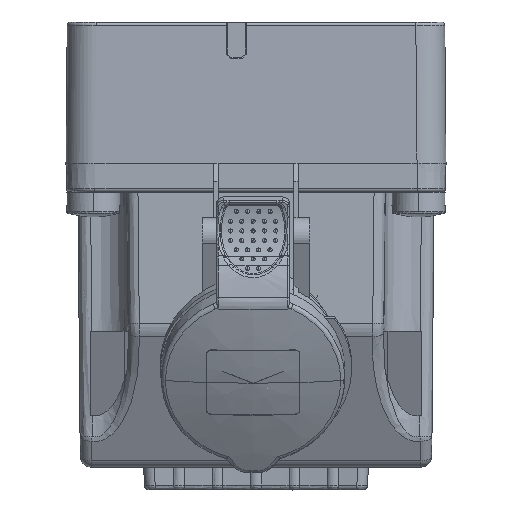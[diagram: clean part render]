
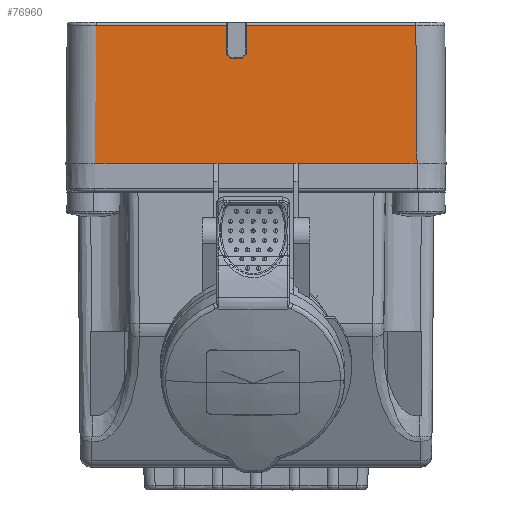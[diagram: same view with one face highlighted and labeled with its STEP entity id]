
A CAD part, left-side view. The second image highlights one B-rep face of the part: STEP entity #76960.
In plain terms, the highlighted planar face has unit normal (-1, 0, 0.004).
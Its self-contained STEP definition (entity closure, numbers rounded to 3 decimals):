
#15 = CARTESIAN_POINT ( 'NONE',  ( 684., 1762.254, 0. ) ) ;
#198 = ORIENTED_EDGE ( 'NONE', *, *, #31707, .T. ) ;
#267 = CARTESIAN_POINT ( 'NONE',  ( 684., 1749., 0. ) ) ;
#2074 = DIRECTION ( 'NONE',  ( 0., 1., 0. ) ) ;
#2452 = DIRECTION ( 'NONE',  ( 0., 1., 0. ) ) ;
#2458 = VERTEX_POINT ( 'NONE', #41092 ) ;
#4107 = ORIENTED_EDGE ( 'NONE', *, *, #54198, .T. ) ;
#4391 = EDGE_CURVE ( 'NONE', #39861, #58232, #29812, .T. ) ;
#5513 = EDGE_CURVE ( 'NONE', #2458, #58232, #10522, .T. ) ;
#6804 = FACE_OUTER_BOUND ( 'NONE', #72465, .T. ) ;
#8446 = VERTEX_POINT ( 'NONE', #10790 ) ;
#9601 = ORIENTED_EDGE ( 'NONE', *, *, #67938, .T. ) ;
#9995 = EDGE_CURVE ( 'NONE', #46278, #67980, #30024, .T. ) ;
#10522 = LINE ( 'NONE', #40234, #34392 ) ;
#10728 = VERTEX_POINT ( 'NONE', #15241 ) ;
#10790 = CARTESIAN_POINT ( 'NONE',  ( 684.113, 1753.276, 32.501 ) ) ;
#11256 = DIRECTION ( 'NONE',  ( -0.002, 0.707, -0.707 ) ) ;
#12350 = CARTESIAN_POINT ( 'NONE',  ( 684.149, 1758.1, 42.803 ) ) ;
#13340 = VECTOR ( 'NONE', #76527, 1000. ) ;
#13574 = DIRECTION ( 'NONE',  ( 0., 1., 0. ) ) ;
#14208 = LINE ( 'NONE', #20087, #63670 ) ;
#15241 = CARTESIAN_POINT ( 'NONE',  ( 684.149, 1752.1, 42.803 ) ) ;
#15285 = DIRECTION ( 'NONE',  ( 0.003, 0.009, 1. ) ) ;
#15604 = CARTESIAN_POINT ( 'NONE',  ( 684., 1735.854, 0. ) ) ;
#15885 = CARTESIAN_POINT ( 'NONE',  ( 684., 1737.354, 0. ) ) ;
#17405 = DIRECTION ( 'NONE',  ( -1., 0., 0.003 ) ) ;
#17587 = ORIENTED_EDGE ( 'NONE', *, *, #68192, .F. ) ;
#17768 = CARTESIAN_POINT ( 'NONE',  ( 684., 1760.754, 0. ) ) ;
#18134 = CARTESIAN_POINT ( 'NONE',  ( 684.118, 1758.1, 33.677 ) ) ;
#19463 = CARTESIAN_POINT ( 'NONE',  ( 684.117, 1758.012, 33.588 ) ) ;
#20087 = CARTESIAN_POINT ( 'NONE',  ( 684.113, 1756.8, 32.501 ) ) ;
#21326 = VERTEX_POINT ( 'NONE', #17768 ) ;
#21806 = ORIENTED_EDGE ( 'NONE', *, *, #54666, .T. ) ;
#22353 = ORIENTED_EDGE ( 'NONE', *, *, #46543, .T. ) ;
#23290 = CARTESIAN_POINT ( 'NONE',  ( 684., 1749., 0. ) ) ;
#23396 = VECTOR ( 'NONE', #50057, 1000. ) ;
#23616 = DIRECTION ( 'NONE',  ( 0., 1., 0. ) ) ;
#24071 = DIRECTION ( 'NONE',  ( 0.003, 0., 1. ) ) ;
#24204 = VECTOR ( 'NONE', #37809, 1000. ) ;
#24269 = ORIENTED_EDGE ( 'NONE', *, *, #33944, .T. ) ;
#26938 = CARTESIAN_POINT ( 'NONE',  ( 684.149, 1749., 42.803 ) ) ;
#27233 = VECTOR ( 'NONE', #13574, 1000. ) ;
#27533 = VECTOR ( 'NONE', #11256, 1000. ) ;
#27814 = DIRECTION ( 'NONE',  ( 0., 1., 0. ) ) ;
#28833 = VERTEX_POINT ( 'NONE', #15885 ) ;
#29314 = LINE ( 'NONE', #34035, #13340 ) ;
#29812 = LINE ( 'NONE', #41503, #74297 ) ;
#30024 = LINE ( 'NONE', #267, #27233 ) ;
#30095 = VERTEX_POINT ( 'NONE', #18134 ) ;
#31707 = EDGE_CURVE ( 'NONE', #46278, #62773, #68751, .T. ) ;
#32207 = LINE ( 'NONE', #55973, #47489 ) ;
#33944 = EDGE_CURVE ( 'NONE', #10728, #43029, #61380, .T. ) ;
#34035 = CARTESIAN_POINT ( 'NONE',  ( 684., 1749., 0. ) ) ;
#34392 = VECTOR ( 'NONE', #45690, 1000. ) ;
#35113 = LINE ( 'NONE', #58881, #27533 ) ;
#35776 = VECTOR ( 'NONE', #23616, 1000. ) ;
#37809 = DIRECTION ( 'NONE',  ( 0.002, 0.707, 0.707 ) ) ;
#39150 = CARTESIAN_POINT ( 'NONE',  ( 684., 1749., 0. ) ) ;
#39861 = VERTEX_POINT ( 'NONE', #15 ) ;
#40234 = CARTESIAN_POINT ( 'NONE',  ( 684.002, 1798.996, 0.436 ) ) ;
#40501 = CARTESIAN_POINT ( 'NONE',  ( 684.113, 1756.924, 32.501 ) ) ;
#40605 = CARTESIAN_POINT ( 'NONE',  ( 684., 1799., 0. ) ) ;
#41092 = CARTESIAN_POINT ( 'NONE',  ( 684.149, 1798.626, 42.803 ) ) ;
#41503 = CARTESIAN_POINT ( 'NONE',  ( 684., 1749., 0. ) ) ;
#41626 = CARTESIAN_POINT ( 'NONE',  ( 684.149, 1758.1, 42.803 ) ) ;
#42008 = AXIS2_PLACEMENT_3D ( 'NONE', #23290, #17405, #47828 ) ;
#43029 = VERTEX_POINT ( 'NONE', #54051 ) ;
#43643 = LINE ( 'NONE', #19463, #24204 ) ;
#44482 = LINE ( 'NONE', #26938, #65605 ) ;
#45214 = CARTESIAN_POINT ( 'NONE',  ( 684.149, 1699.374, 42.803 ) ) ;
#45687 = EDGE_CURVE ( 'NONE', #30095, #60944, #52187, .T. ) ;
#45690 = DIRECTION ( 'NONE',  ( -0.003, 0.009, -1. ) ) ;
#46278 = VERTEX_POINT ( 'NONE', #55546 ) ;
#46543 = EDGE_CURVE ( 'NONE', #46733, #30095, #43643, .T. ) ;
#46733 = VERTEX_POINT ( 'NONE', #40501 ) ;
#46954 = DIRECTION ( 'NONE',  ( 0., 1., 0. ) ) ;
#47489 = VECTOR ( 'NONE', #2452, 1000. ) ;
#47828 = DIRECTION ( 'NONE',  ( 0., 1., 0. ) ) ;
#50057 = DIRECTION ( 'NONE',  ( -0.003, 0., -1. ) ) ;
#50797 = CARTESIAN_POINT ( 'NONE',  ( 684.002, 1699.004, 0.436 ) ) ;
#51921 = EDGE_CURVE ( 'NONE', #67980, #28833, #29314, .T. ) ;
#52187 = LINE ( 'NONE', #41626, #60268 ) ;
#53261 = LINE ( 'NONE', #77080, #35776 ) ;
#54051 = CARTESIAN_POINT ( 'NONE',  ( 684.118, 1752.1, 33.677 ) ) ;
#54198 = EDGE_CURVE ( 'NONE', #43029, #8446, #35113, .T. ) ;
#54666 = EDGE_CURVE ( 'NONE', #8446, #46733, #14208, .T. ) ;
#54748 = EDGE_CURVE ( 'NONE', #21326, #39861, #32207, .T. ) ;
#54833 = ORIENTED_EDGE ( 'NONE', *, *, #45687, .T. ) ;
#55531 = CARTESIAN_POINT ( 'NONE',  ( 684.118, 1752.1, 33.8 ) ) ;
#55546 = CARTESIAN_POINT ( 'NONE',  ( 684., 1699., 0. ) ) ;
#55973 = CARTESIAN_POINT ( 'NONE',  ( 684., 1749., 0. ) ) ;
#56978 = DIRECTION ( 'NONE',  ( 0., 1., 0. ) ) ;
#57206 = ORIENTED_EDGE ( 'NONE', *, *, #54748, .F. ) ;
#58232 = VERTEX_POINT ( 'NONE', #40605 ) ;
#58428 = ORIENTED_EDGE ( 'NONE', *, *, #51921, .F. ) ;
#58768 = PLANE ( 'NONE',  #42008 ) ;
#58881 = CARTESIAN_POINT ( 'NONE',  ( 684.114, 1753.188, 32.588 ) ) ;
#59349 = VECTOR ( 'NONE', #27814, 1000. ) ;
#60268 = VECTOR ( 'NONE', #24071, 1000. ) ;
#60944 = VERTEX_POINT ( 'NONE', #12350 ) ;
#61380 = LINE ( 'NONE', #55531, #23396 ) ;
#62220 = ORIENTED_EDGE ( 'NONE', *, *, #65974, .T. ) ;
#62773 = VERTEX_POINT ( 'NONE', #45214 ) ;
#63670 = VECTOR ( 'NONE', #2074, 1000. ) ;
#65605 = VECTOR ( 'NONE', #56978, 1000. ) ;
#65974 = EDGE_CURVE ( 'NONE', #60944, #2458, #53261, .T. ) ;
#67938 = EDGE_CURVE ( 'NONE', #62773, #10728, #44482, .T. ) ;
#67980 = VERTEX_POINT ( 'NONE', #15604 ) ;
#68092 = ORIENTED_EDGE ( 'NONE', *, *, #5513, .T. ) ;
#68192 = EDGE_CURVE ( 'NONE', #28833, #21326, #69550, .T. ) ;
#68751 = LINE ( 'NONE', #50797, #72052 ) ;
#69550 = LINE ( 'NONE', #39150, #59349 ) ;
#71536 = ORIENTED_EDGE ( 'NONE', *, *, #9995, .F. ) ;
#72052 = VECTOR ( 'NONE', #15285, 1000. ) ;
#72465 = EDGE_LOOP ( 'NONE', ( #22353, #54833, #62220, #68092, #76796, #57206, #17587, #58428, #71536, #198, #9601, #24269, #4107, #21806 ) ) ;
#74297 = VECTOR ( 'NONE', #46954, 1000. ) ;
#76527 = DIRECTION ( 'NONE',  ( 0., 1., 0. ) ) ;
#76796 = ORIENTED_EDGE ( 'NONE', *, *, #4391, .F. ) ;
#76960 = ADVANCED_FACE ( 'NONE', ( #6804 ), #58768, .T. ) ;
#77080 = CARTESIAN_POINT ( 'NONE',  ( 684.149, 1749., 42.803 ) ) ;
